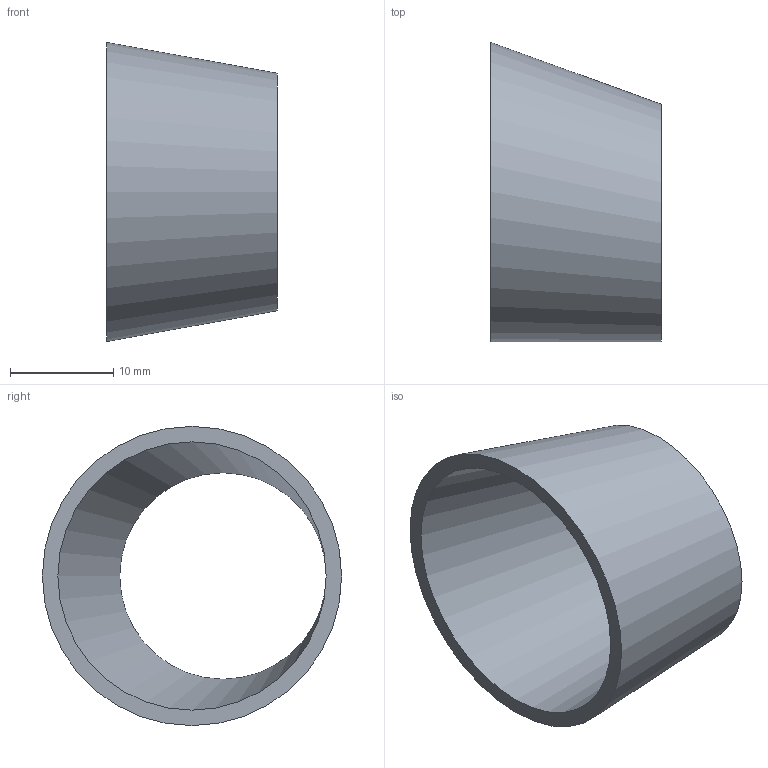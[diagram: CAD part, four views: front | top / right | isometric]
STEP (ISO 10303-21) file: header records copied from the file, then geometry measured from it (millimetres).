
FILE_DESCRIPTION(('FreeCAD Model'),'2;1');
FILE_NAME( '/home/martin/Documents/proyect/accesorios/stp/red-exc_DN25-20.step', '2017-12-31T13:02:18',('Author'),(''), 'Open CASCADE STEP processor 6.8','FreeCAD','Unknown');
FILE_SCHEMA(('AUTOMOTIVE_DESIGN_CC2 { 1 2 10303 214 -1 1 5 4 }'));
Length unit declared in the file: millimetre
Products named in the file (1): red-exc_DN25-20
Bounding box: 16.5 x 29 x 29 mm (x, y, z)
Volume: 1905 mm3; surface area: 2832.4 mm2
Topology: 1 solids, 1 shells, 4 faces, 6 edges, 4 vertices
Faces by surface type: bspline 2, plane 2
Entity records: 247 total; most frequent: CARTESIAN_POINT 87, DIRECTION 26, ORIENTED_EDGE 12, PCURVE 12, DEFINITIONAL_REPRESENTATION 12, CIRCLE 8, LINE 8, VECTOR 8
